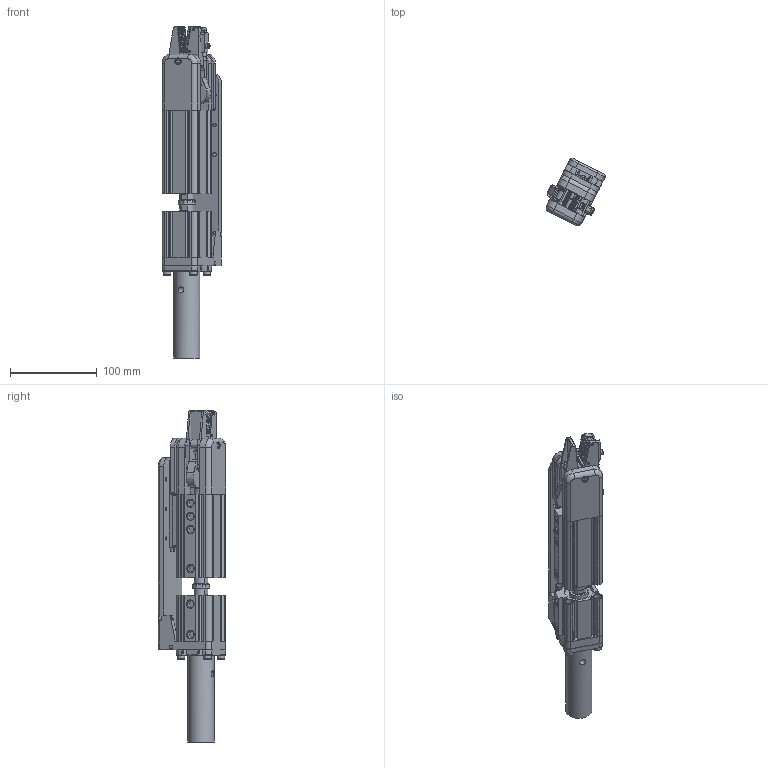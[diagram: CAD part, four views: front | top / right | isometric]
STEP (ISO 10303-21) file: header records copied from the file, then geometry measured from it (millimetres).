
FILE_DESCRIPTION(/* description */ (''),/* implementation_level */ '2;1');
FILE_NAME(/* name */ '8Y00469-GRP32A-3020CP--30.stp',/* time_stamp */ '2023-02-22T14:09:13+08:00',/* author */ (''),/* organization */ (''),/* preprocessor_version */ 'ST-DEVELOPER v16',/* originating_system */ 'SIEMENS PLM Software NX 10.0',/* authorisation */ '');
FILE_SCHEMA (('AUTOMOTIVE_DESIGN { 1 0 10303 214 3 1 1 1 }'));
Products named in the file (1): _model44
Bounding box: 68.82 x 77.88 x 381.73 mm (x, y, z)
Volume: 533577.6 mm3; surface area: 216043.5 mm2
Topology: 34 solids, 59 shells, 2934 faces, 6432 edges, 3667 vertices
Faces by surface type: plane 2248, cylinder 439, cone 174, torus 37, sphere 28, bspline 8
Full cylindrical faces by diameter (mm): 2.5 x5, 3 x5, 3.1 x2, 3.242 x2, 3.3 x6, 3.4 x3, 4 x15, 4.1 x2, 4.2 x16, 4.5 x10, 4.917 x8, 5 x14, 5.2 x12, 5.5 x9, 6 x16, 6.5 x2, 6.647 x3, 6.8 x1, 7 x17, 8 x13, 8.1 x2, 8.5 x13, 8.566 x6, 8.6 x2, 9 x16, 10 x4, 13 x4, 13.5 x1, 14 x1, 15 x3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
Entity records: 96776 total; most frequent: CARTESIAN_POINT 15039, DIRECTION 12801, ORIENTED_EDGE 11520, EDGE_CURVE 5760, AXIS2_PLACEMENT_3D 4270, LINE 4261, VECTOR 4261, EDGE_LOOP 3552
